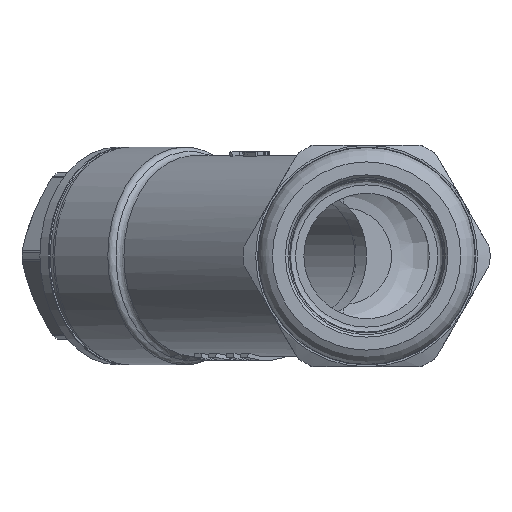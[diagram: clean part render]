
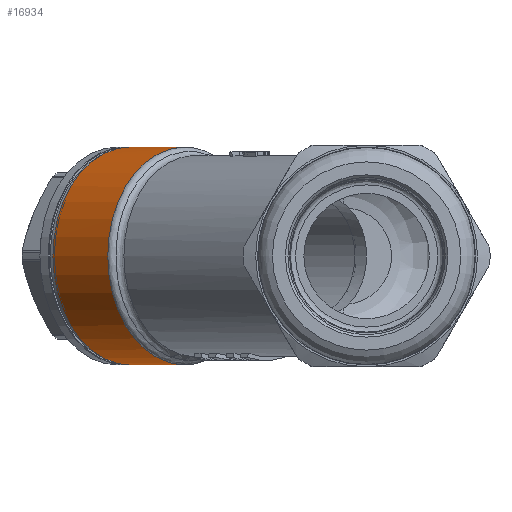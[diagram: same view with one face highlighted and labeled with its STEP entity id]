
A CAD part, left-side view. The second image highlights one B-rep face of the part: STEP entity #16934.
In plain terms, the highlighted cylindrical face has radius 13 mm (diameter 26 mm), a full revolution.
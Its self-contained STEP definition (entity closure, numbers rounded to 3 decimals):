
#11228=CARTESIAN_POINT('',(22.658,15.382,1.412));
#11229=VERTEX_POINT('',#11228);
#11238=CARTESIAN_POINT('',(22.935,15.582,0.765));
#11239=VERTEX_POINT('',#11238);
#11247=CARTESIAN_POINT('',(22.658,15.382,1.412));
#11248=CARTESIAN_POINT('',(22.71,15.423,1.344));
#11249=CARTESIAN_POINT('',(22.754,15.458,1.274));
#11250=CARTESIAN_POINT('',(22.792,15.486,1.202));
#11251=CARTESIAN_POINT('',(22.83,15.514,1.13));
#11252=CARTESIAN_POINT('',(22.861,15.537,1.056));
#11253=CARTESIAN_POINT('',(22.885,15.553,0.983));
#11254=CARTESIAN_POINT('',(22.909,15.569,0.91));
#11255=CARTESIAN_POINT('',(22.925,15.578,0.837));
#11256=CARTESIAN_POINT('',(22.935,15.582,0.765));
#11257=B_SPLINE_CURVE_WITH_KNOTS('',3,(#11247,#11248,#11249,#11250,#11251,#11252,#11253,#11254,#11255,#11256),.UNSPECIFIED.,.F.,.U.,(4,3,3,4),(0.0,0.333,0.667,1.0),.UNSPECIFIED.);
#11258=EDGE_CURVE('',#11229,#11239,#11257,.T.);
#11311=CARTESIAN_POINT('',(19.24,13.238,4.946));
#11312=VERTEX_POINT('',#11311);
#11313=CARTESIAN_POINT('',(19.24,13.238,4.946));
#11314=CARTESIAN_POINT('',(19.716,13.482,4.548));
#11315=CARTESIAN_POINT('',(20.158,13.725,4.149));
#11316=CARTESIAN_POINT('',(20.568,13.966,3.753));
#11317=CARTESIAN_POINT('',(20.978,14.207,3.356));
#11318=CARTESIAN_POINT('',(21.355,14.445,2.963));
#11319=CARTESIAN_POINT('',(21.703,14.681,2.572));
#11320=CARTESIAN_POINT('',(22.051,14.918,2.182));
#11321=CARTESIAN_POINT('',(22.369,15.152,1.794));
#11322=CARTESIAN_POINT('',(22.658,15.382,1.412));
#11323=B_SPLINE_CURVE_WITH_KNOTS('',3,(#11313,#11314,#11315,#11316,#11317,#11318,#11319,#11320,#11321,#11322),.UNSPECIFIED.,.F.,.U.,(4,3,3,4),(0.0,0.333,0.667,1.0),.UNSPECIFIED.);
#11324=EDGE_CURVE('',#11312,#11229,#11323,.T.);
#15419=CARTESIAN_POINT('',(19.24,13.238,-4.946));
#15420=VERTEX_POINT('',#15419);
#15438=CARTESIAN_POINT('',(10.739,21.739,0.0));
#15439=DIRECTION('',(0.707,0.707,0.0));
#15440=DIRECTION('',(-0.707,0.707,0.0));
#15441=AXIS2_PLACEMENT_3D('',#15438,#15439,#15440);
#15442=CIRCLE('',#15441,13.);
#15443=EDGE_CURVE('',#15420,#11312,#15442,.T.);
#15559=CARTESIAN_POINT('',(22.658,15.382,-1.412));
#15560=VERTEX_POINT('',#15559);
#15561=CARTESIAN_POINT('',(22.658,15.382,-1.412));
#15562=CARTESIAN_POINT('',(22.369,15.152,-1.794));
#15563=CARTESIAN_POINT('',(22.05,14.918,-2.182));
#15564=CARTESIAN_POINT('',(21.703,14.681,-2.572));
#15565=CARTESIAN_POINT('',(21.355,14.445,-2.963));
#15566=CARTESIAN_POINT('',(20.978,14.206,-3.357));
#15567=CARTESIAN_POINT('',(20.568,13.966,-3.753));
#15568=CARTESIAN_POINT('',(20.158,13.725,-4.149));
#15569=CARTESIAN_POINT('',(19.716,13.482,-4.548));
#15570=CARTESIAN_POINT('',(19.24,13.238,-4.946));
#15571=B_SPLINE_CURVE_WITH_KNOTS('',3,(#15561,#15562,#15563,#15564,#15565,#15566,#15567,#15568,#15569,#15570),.UNSPECIFIED.,.F.,.U.,(4,3,3,4),(0.0,0.333,0.667,1.0),.UNSPECIFIED.);
#15572=EDGE_CURVE('',#15560,#15420,#15571,.T.);
#15633=CARTESIAN_POINT('',(22.935,15.582,-0.765));
#15634=VERTEX_POINT('',#15633);
#15642=CARTESIAN_POINT('',(22.988,15.604,0.));
#15643=VERTEX_POINT('',#15642);
#15644=CARTESIAN_POINT('',(22.988,15.604,0.));
#15645=CARTESIAN_POINT('',(22.988,15.604,-0.085));
#15646=CARTESIAN_POINT('',(22.986,15.603,-0.171));
#15647=CARTESIAN_POINT('',(22.982,15.601,-0.256));
#15648=CARTESIAN_POINT('',(22.978,15.6,-0.341));
#15649=CARTESIAN_POINT('',(22.972,15.597,-0.426));
#15650=CARTESIAN_POINT('',(22.965,15.594,-0.511));
#15651=CARTESIAN_POINT('',(22.957,15.591,-0.596));
#15652=CARTESIAN_POINT('',(22.947,15.587,-0.681));
#15653=CARTESIAN_POINT('',(22.935,15.582,-0.765));
#15654=B_SPLINE_CURVE_WITH_KNOTS('',3,(#15644,#15645,#15646,#15647,#15648,#15649,#15650,#15651,#15652,#15653),.UNSPECIFIED.,.F.,.U.,(4,3,3,4),(0.0,0.333,0.667,1.0),.UNSPECIFIED.);
#15655=EDGE_CURVE('',#15643,#15634,#15654,.T.);
#15717=CARTESIAN_POINT('',(22.935,15.582,-0.765));
#15718=CARTESIAN_POINT('',(22.925,15.578,-0.837));
#15719=CARTESIAN_POINT('',(22.909,15.569,-0.91));
#15720=CARTESIAN_POINT('',(22.885,15.553,-0.983));
#15721=CARTESIAN_POINT('',(22.861,15.537,-1.056));
#15722=CARTESIAN_POINT('',(22.83,15.514,-1.13));
#15723=CARTESIAN_POINT('',(22.792,15.486,-1.202));
#15724=CARTESIAN_POINT('',(22.754,15.458,-1.274));
#15725=CARTESIAN_POINT('',(22.71,15.423,-1.344));
#15726=CARTESIAN_POINT('',(22.658,15.382,-1.412));
#15727=B_SPLINE_CURVE_WITH_KNOTS('',3,(#15717,#15718,#15719,#15720,#15721,#15722,#15723,#15724,#15725,#15726),.UNSPECIFIED.,.F.,.U.,(4,3,3,4),(0.0,0.333,0.667,1.0),.UNSPECIFIED.);
#15728=EDGE_CURVE('',#15634,#15560,#15727,.T.);
#16895=CARTESIAN_POINT('',(22.935,15.582,0.765));
#16896=CARTESIAN_POINT('',(22.953,15.589,0.636));
#16897=CARTESIAN_POINT('',(22.966,15.595,0.507));
#16898=CARTESIAN_POINT('',(22.975,15.598,0.379));
#16899=CARTESIAN_POINT('',(22.984,15.602,0.252));
#16900=CARTESIAN_POINT('',(22.988,15.604,0.125));
#16901=CARTESIAN_POINT('',(22.988,15.604,0.));
#16902=B_SPLINE_CURVE_WITH_KNOTS('',3,(#16895,#16896,#16897,#16898,#16899,#16900,#16901),.UNSPECIFIED.,.F.,.U.,(4,3,4),(0.0,0.5,1.0),.UNSPECIFIED.);
#16903=EDGE_CURVE('',#11239,#15643,#16902,.T.);
#16909=CARTESIAN_POINT('',(18.0,29.,0.0));
#16910=DIRECTION('',(0.707,0.707,0.0));
#16911=DIRECTION('',(0.707,-0.707,0.0));
#16912=AXIS2_PLACEMENT_3D('',#16909,#16910,#16911);
#16913=CYLINDRICAL_SURFACE('',#16912,13.);
#16914=CARTESIAN_POINT('',(8.101,37.485,0.0));
#16915=VERTEX_POINT('',#16914);
#16916=CARTESIAN_POINT('',(17.293,28.293,0.0));
#16917=DIRECTION('',(0.707,0.707,0.0));
#16918=DIRECTION('',(0.707,-0.707,0.0));
#16919=AXIS2_PLACEMENT_3D('',#16916,#16917,#16918);
#16920=CIRCLE('',#16919,13.);
#16921=EDGE_CURVE('',#16915,#16915,#16920,.T.);
#16922=ORIENTED_EDGE('',*,*,#16921,.F.);
#16923=EDGE_LOOP('',(#16922));
#16924=FACE_OUTER_BOUND('',#16923,.T.);
#16925=ORIENTED_EDGE('',*,*,#15443,.T.);
#16926=ORIENTED_EDGE('',*,*,#11324,.T.);
#16927=ORIENTED_EDGE('',*,*,#11258,.T.);
#16928=ORIENTED_EDGE('',*,*,#16903,.T.);
#16929=ORIENTED_EDGE('',*,*,#15655,.T.);
#16930=ORIENTED_EDGE('',*,*,#15728,.T.);
#16931=ORIENTED_EDGE('',*,*,#15572,.T.);
#16932=EDGE_LOOP('',(#16925,#16926,#16927,#16928,#16929,#16930,#16931));
#16933=FACE_BOUND('',#16932,.T.);
#16934=ADVANCED_FACE('',(#16924,#16933),#16913,.T.);
